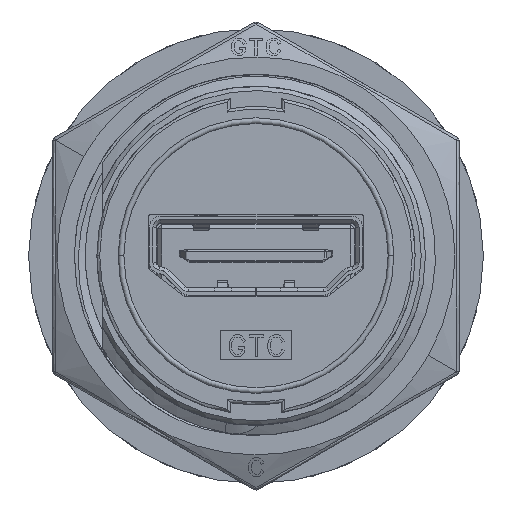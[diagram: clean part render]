
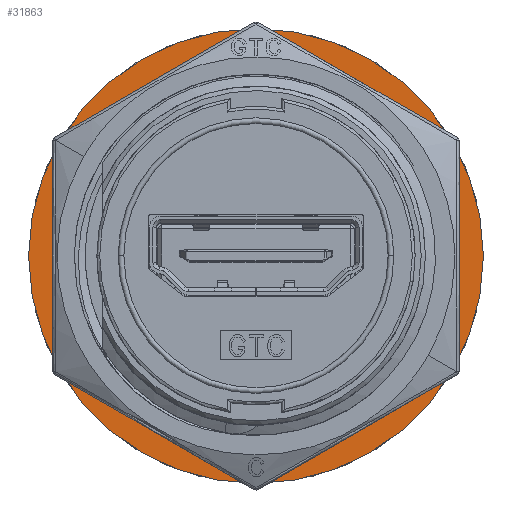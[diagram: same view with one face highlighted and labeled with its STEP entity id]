
A CAD part, top view. The second image highlights one B-rep face of the part: STEP entity #31863.
In plain terms, the highlighted planar face has unit normal (0, 0, 1).
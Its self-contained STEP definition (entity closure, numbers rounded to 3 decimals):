
#777 = CARTESIAN_POINT ( 'NONE',  ( 0., 0., 3.4 ) ) ;
#2172 = CARTESIAN_POINT ( 'NONE',  ( 0., 0., 3.4 ) ) ;
#4982 = CARTESIAN_POINT ( 'NONE',  ( 0., 0., 3.4 ) ) ;
#7584 = DIRECTION ( 'NONE',  ( 0., 0., -1. ) ) ;
#8219 = FACE_OUTER_BOUND ( 'NONE', #22748, .T. ) ;
#10567 = CARTESIAN_POINT ( 'NONE',  ( 0., -16., 3.4 ) ) ;
#12419 = AXIS2_PLACEMENT_3D ( 'NONE', #777, #7584, #73162 ) ;
#13719 = VERTEX_POINT ( 'NONE', #10567 ) ;
#17136 = AXIS2_PLACEMENT_3D ( 'NONE', #72966, #74200, #60600 ) ;
#22748 = EDGE_LOOP ( 'NONE', ( #40257, #49842 ) ) ;
#25752 = EDGE_CURVE ( 'NONE', #13719, #48957, #82405, .T. ) ;
#27987 = CARTESIAN_POINT ( 'NONE',  ( 0., 16., 3.4 ) ) ;
#31863 = ADVANCED_FACE ( 'NONE', ( #8219, #80578 ), #48240, .F. ) ;
#36190 = DIRECTION ( 'NONE',  ( 0., 1., 0. ) ) ;
#36450 = AXIS2_PLACEMENT_3D ( 'NONE', #76622, #69404, #36190 ) ;
#36923 = CIRCLE ( 'NONE', #12419, 12.7 ) ;
#40257 = ORIENTED_EDGE ( 'NONE', *, *, #25752, .F. ) ;
#47036 = AXIS2_PLACEMENT_3D ( 'NONE', #4982, #56536, #65340 ) ;
#48240 = PLANE ( 'NONE',  #17136 ) ;
#48957 = VERTEX_POINT ( 'NONE', #27987 ) ;
#49842 = ORIENTED_EDGE ( 'NONE', *, *, #72008, .F. ) ;
#54147 = DIRECTION ( 'NONE',  ( 0., 0., -1. ) ) ;
#56536 = DIRECTION ( 'NONE',  ( 0., 0., -1. ) ) ;
#56726 = EDGE_CURVE ( 'NONE', #70428, #78881, #75219, .T. ) ;
#60600 = DIRECTION ( 'NONE',  ( 0., 1., 0. ) ) ;
#60952 = DIRECTION ( 'NONE',  ( 0., 1., 0. ) ) ;
#61743 = EDGE_LOOP ( 'NONE', ( #68273, #64505 ) ) ;
#64505 = ORIENTED_EDGE ( 'NONE', *, *, #56726, .T. ) ;
#65340 = DIRECTION ( 'NONE',  ( 0., 1., 0. ) ) ;
#66374 = CIRCLE ( 'NONE', #36450, 16. ) ;
#68273 = ORIENTED_EDGE ( 'NONE', *, *, #78015, .T. ) ;
#69404 = DIRECTION ( 'NONE',  ( 0., 0., -1. ) ) ;
#69849 = AXIS2_PLACEMENT_3D ( 'NONE', #2172, #54147, #60952 ) ;
#70428 = VERTEX_POINT ( 'NONE', #83625 ) ;
#72008 = EDGE_CURVE ( 'NONE', #48957, #13719, #66374, .T. ) ;
#72966 = CARTESIAN_POINT ( 'NONE',  ( 0., 0., 3.4 ) ) ;
#73162 = DIRECTION ( 'NONE',  ( 0., 1., 0. ) ) ;
#74200 = DIRECTION ( 'NONE',  ( 0., 0., -1. ) ) ;
#75120 = CARTESIAN_POINT ( 'NONE',  ( 0., -12.7, 3.4 ) ) ;
#75219 = CIRCLE ( 'NONE', #69849, 12.7 ) ;
#76622 = CARTESIAN_POINT ( 'NONE',  ( 0., 0., 3.4 ) ) ;
#78015 = EDGE_CURVE ( 'NONE', #78881, #70428, #36923, .T. ) ;
#78881 = VERTEX_POINT ( 'NONE', #75120 ) ;
#80578 = FACE_BOUND ( 'NONE', #61743, .T. ) ;
#82405 = CIRCLE ( 'NONE', #47036, 16. ) ;
#83625 = CARTESIAN_POINT ( 'NONE',  ( 0., 12.7, 3.4 ) ) ;
